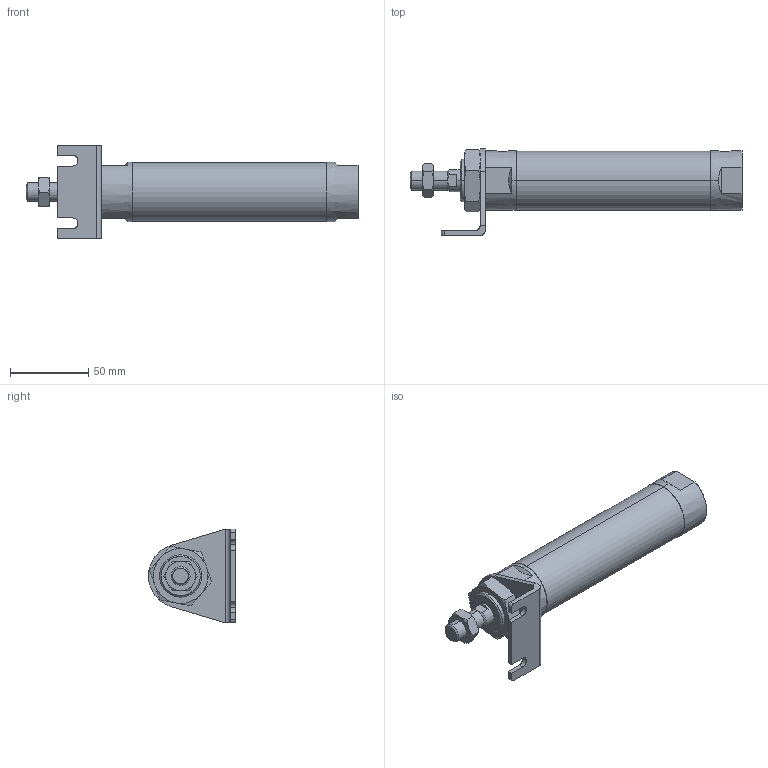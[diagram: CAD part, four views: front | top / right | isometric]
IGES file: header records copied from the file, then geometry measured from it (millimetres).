
Start section: SolidWorks IGES file using analytic representation for surfaces
Global section: file name: C:\Users\Toshiba\Desktop\JGND2-32-75-L.IGS; native system: SolidWorks 2014; preprocessor: SolidWorks 2014; author: Toshiba; date: 160804.104927; units: millimetre
Bounding box: 212 x 55.5 x 60 mm (x, y, z)
Surface area: 37169.4 mm2 (no closed solid volume)
Topology: 0 solids, 0 shells, 116 faces, 1918 edges, 1914 vertices
Faces by surface type: bspline 71, revolution 45
